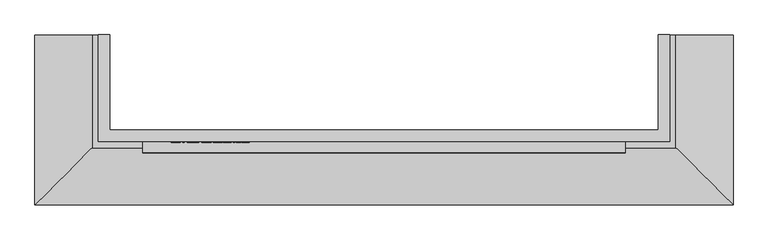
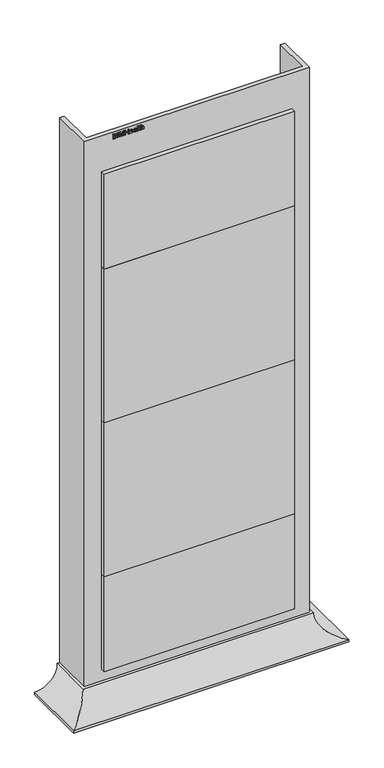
"""IFC4 building model written with IfcOpenShell, lengths in millimetres: furniture geometry, BIMHealth-Washstation-LOD2A-v1 : BIMHealth-Washstation-LOD2A-v1."""

from ifc_helpers import new_model, si_unit, frame, origin, origin_with_axes, place, context, project, spatial, polyline, circle_curve, ellipse_curve, outline, extrude, source, transform, mapped, element, save
from ifc_brep_helpers import plane_surface, revolved_surface, advanced_brep


def furniture_f87fb194(model_context):
    return source(origin(), model_context, "Body", "SolidModel", [
        advanced_brep(
        [(-900.0, 0.0, 100.0), (-900.0, 0.0, 0.0), (-1000.0, 0.0, 0.0), (-1000.0, 0.0, 10.0), (-910.0, 0.0, 100.0), (-900.0, -168.0, 100.0), (-900.0, -168.0, 0.0), (0.0, -168.0, 0.0), (0.0, 0.0, 0.0), (100.0, 0.0, 0.0), (100.0, -268.0, 0.0), (-1000.0, -268.0, 0.0), (-1000.0, -268.0, 10.0), (-910.0, -178.0, 100.0), (10.0, -178.0, 100.0), (10.0, 0.0, 100.0), (0.0, 0.0, 100.0), (0.0, -168.0, 100.0), (100.0, -268.0, 10.0), (100.0, 0.0, 10.0)],
        [
            (0, 1),
            (1, 2),
            (2, 3),
            (3, 4, circle_curve(frame((-1000.0, 0.0, 100.0), z_axis=(0.0, -1.0, 0.0), x_axis=(-1.0, 0.0, 0.0)), 90.0)),
            (4, 0),
            (0, 5),
            (5, 6),
            (6, 1),
            (6, 7),
            (7, 8),
            (8, 9),
            (9, 10),
            (10, 11),
            (11, 2),
            (11, 12),
            (12, 3),
            (12, 13, ellipse_curve(frame((-1000.0, -268.0, 100.0), z_axis=(0.7071067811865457, -0.7071067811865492, 0.0), x_axis=(-0.7071067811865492, -0.7071067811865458, 0.0)), 127.2792206, 90.0)),
            (13, 4),
            (13, 14),
            (14, 15),
            (15, 16),
            (16, 17),
            (17, 5),
            (17, 7),
            (10, 18),
            (18, 12),
            (18, 14, ellipse_curve(frame((100.0, -268.0, 100.0), z_axis=(0.7071067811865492, 0.7071067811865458, 0.0), x_axis=(0.7071067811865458, -0.7071067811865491, 0.0)), 127.2792206, 90.0)),
            (15, 19, circle_curve(frame((100.0, 0.0, 100.0), z_axis=(0.0, -1.0, 0.0), x_axis=(1.0, 0.0, 0.0)), 90.0)),
            (19, 9),
            (8, 16),
            (19, 18),
        ],
        [
            plane_surface(frame((-900.0, 0.0, 0.0), z_axis=(0.0, 1.0, 0.0), x_axis=(0.0, 0.0, 1.0))),
            plane_surface(frame((-900.0, 0.0, 100.0), z_axis=(1.0, 0.0, 0.0), x_axis=(0.0, -1.0, 0.0))),
            plane_surface(frame((-900.0, 0.0, 0.0), z_axis=(0.0, 0.0, -1.0), x_axis=(0.0, -1.0, 0.0))),
            plane_surface(frame((-1000.0, 0.0, 0.0), z_axis=(-1.0, 0.0, 0.0), x_axis=(0.0, -1.0, 0.0))),
            revolved_surface(polyline([(-1090.0, -357.9999999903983, 100.0), (-1090.0, 0.0, 100.0)]), (-1000.0, 0.0, 100.0), (0.0, -1.0, 0.0)),
            plane_surface(frame((-910.0, 0.0, 100.0), z_axis=(0.0, 0.0, 1.0), x_axis=(0.0, -1.0, 0.0))),
            plane_surface(frame((-900.0, -168.0, 100.0), z_axis=(0.0, 1.0, 0.0), x_axis=(1.0, 0.0, 0.0))),
            plane_surface(frame((-1000.0, -268.0, 0.0), z_axis=(0.0, -1.0, 0.0), x_axis=(1.0, 0.0, 0.0))),
            revolved_surface(polyline([(189.99999999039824, -358.0, 100.0), (-1089.9999999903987, -358.0, 100.0)]), (-900.0, -268.0, 100.0), (1.0, 0.0, 0.0)),
            plane_surface(frame((0.0, 0.0, 0.0), z_axis=(0.0, 1.0, 0.0), x_axis=(0.0, 0.0, 1.0))),
            plane_surface(frame((0.0, -168.0, 100.0), z_axis=(-1.0, 0.0, 0.0), x_axis=(0.0, 1.0, 0.0))),
            plane_surface(frame((100.0, -268.0, 0.0), z_axis=(1.0, 0.0, 0.0), x_axis=(0.0, 1.0, 0.0))),
            revolved_surface(polyline([(190.0, 0.0, 100.0), (190.0, -357.9999999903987, 100.0)]), (100.0, -168.0, 100.0), (0.0, 1.0, 0.0)),
        ],
        [
            (0, [[1, 2, 3, 4, 5]]),
            (1, [[-1, 6, 7, 8]]),
            (2, [[-2, -8, 9, 10, 11, 12, 13, 14]]),
            (3, [[-3, -14, 15, 16]]),
            (4, [[-4, -16, 17, 18]]),
            (5, [[-5, -18, 19, 20, 21, 22, 23, -6]]),
            (6, [[-7, -23, 24, -9]]),
            (7, [[-15, -13, 25, 26]]),
            (8, [[-17, -26, 27, -19]]),
            (9, [[-21, 28, 29, -11, 30]]),
            (10, [[-24, -22, -30, -10]]),
            (11, [[-25, -12, -29, 31]]),
            (12, [[-27, -31, -28, -20]]),
        ],
    ),
        extrude(outline(polyline([(2373.0972535, -785.4733843), (2373.0972535, -778.0166535), (2373.4361958, -774.8604035), (2374.4361958, -772.7185766), (2376.3208112, -771.2834804), (2378.9674458, -770.7041535), (2382.0299458, -771.5527112), (2383.8664843, -773.978192), (2385.6092727, -771.9805958), (2387.9097535, -771.3195381), (2390.4289843, -772.1055958), (2392.2102343, -774.2786728), (2392.7895612, -777.9589612), (2392.7895612, -785.4733843), (2373.0972535, -785.4733843)]), holes=[polyline([(2384.7895612, -783.0118458), (2390.3280227, -783.0118458), (2390.3280227, -778.8579997), (2390.0708112, -775.6945381), (2389.121292, -774.2762689), (2387.5155227, -773.7810766), (2385.9121574, -774.3123266), (2385.0010997, -775.8916535), (2384.7895612, -778.5166535), (2384.7895612, -783.0118458)]), polyline([(2375.558792, -783.0118458), (2382.3280227, -783.0118458), (2382.3280227, -778.2041535), (2381.9986958, -775.1632881), (2380.8568689, -773.6368458), (2378.9434074, -773.165692), (2376.1910035, -774.5911728), (2375.6549458, -776.1368458), (2375.558792, -777.9637689), (2375.558792, -783.0118458)])]), frame((0.0, -170.0, 0.0), z_axis=(0.0, 1.0, 0.0), x_axis=(0.0, 0.0, 1.0)), (0.0, 0.0, 1.0), 2.0),
        extrude(outline(polyline([(-764.5503074, -170.0), (-767.0118458, -170.0), (-767.0118458, -168.0), (-764.5503074, -168.0), (-764.5503074, -170.0)])), frame((0.0, 0.0, 2373.0972535), z_axis=(0.0, 0.0, 1.0), x_axis=(1.0, 0.0, 0.0)), (0.0, 0.0, 1.0), 19.6923077),
        extrude(outline(polyline([(2373.0972535, -759.6272304), (2373.0972535, -757.165692), (2390.3280227, -757.165692), (2373.0972535, -752.2137689), (2373.0972535, -748.8820381), (2390.3280227, -743.9349228), (2373.0972535, -743.9349228), (2373.0972535, -741.4733843), (2392.7895612, -741.4733843), (2392.7895612, -745.7089612), (2379.1501381, -749.6704997), (2376.0107151, -750.5503074), (2378.9097535, -751.3676151), (2392.7895612, -755.4060766), (2392.7895612, -759.6272304), (2373.0972535, -759.6272304)])), frame((0.0, -170.0, 0.0), z_axis=(0.0, 1.0, 0.0), x_axis=(0.0, 0.0, 1.0)), (0.0, 0.0, 1.0), 2.0),
        extrude(outline(polyline([(2373.0972535, -737.165692), (2373.0972535, -734.7041535), (2382.3280227, -734.7041535), (2382.3280227, -724.2426151), (2373.0972535, -724.2426151), (2373.0972535, -721.7810766), (2392.7895612, -721.7810766), (2392.7895612, -724.2426151), (2384.7895612, -724.2426151), (2384.7895612, -734.7041535), (2392.7895612, -734.7041535), (2392.7895612, -737.165692), (2373.0972535, -737.165692)])), frame((0.0, -170.0, 0.0), z_axis=(0.0, 1.0, 0.0), x_axis=(0.0, 0.0, 1.0)), (0.0, 0.0, 1.0), 2.0),
        extrude(outline(polyline([(2377.4049458, -707.6560766), (2375.7655227, -709.2426151), (2375.2510997, -711.6560766), (2376.3616766, -714.8267497), (2379.558792, -716.2426151), (2380.2222535, -705.165692), (2385.8616766, -707.0334804), (2387.8664843, -711.8435766), (2385.8568689, -716.7954997), (2380.2078304, -718.7041535), (2374.7390804, -716.8147304), (2372.7895612, -711.7041535), (2373.9193689, -707.4998266), (2377.0972535, -705.2426151), (2377.4049458, -707.6560766)]), holes=[polyline([(2382.0203304, -716.2426151), (2384.4842727, -714.884442), (2385.4049458, -711.853192), (2384.2510997, -708.6128074), (2382.0203304, -707.6272304), (2382.0203304, -716.2426151)])]), frame((0.0, -170.0, 0.0), z_axis=(0.0, 1.0, 0.0), x_axis=(0.0, 0.0, 1.0)), (0.0, 0.0, 1.0), 2.0),
        extrude(outline(polyline([(2374.9434074, -693.4733843), (2373.0972535, -692.8579997), (2373.0972535, -690.3964612), (2375.1669651, -690.8868458), (2379.4434074, -691.0118458), (2382.5059074, -691.0118458), (2384.6597535, -691.1320381), (2386.3304266, -691.8868458), (2387.4289843, -693.571942), (2387.8664843, -696.5551151), (2387.371292, -699.8027112), (2385.9626381, -701.946942), (2383.558792, -703.0118458), (2383.2510997, -700.5503074), (2384.9313881, -699.3628074), (2385.4049458, -696.8724228), (2384.6934074, -694.1512689), (2382.3280227, -693.4878074), (2381.4818689, -697.7570381), (2381.1116766, -699.8868458), (2380.3039843, -701.6104035), (2378.8905227, -702.8483843), (2376.9434074, -703.3195381), (2373.9578304, -702.071942), (2372.7895612, -698.4974228), (2373.2751381, -695.8604035), (2374.9434074, -693.4733843)]), holes=[polyline([(2379.5179266, -693.4805958), (2377.2655227, -693.8772304), (2375.840042, -695.4829997), (2375.2510997, -697.9733843), (2378.7126381, -699.5623266), (2379.1116766, -697.4445381), (2379.5179266, -693.4805958)])]), frame((0.0, -170.0, 0.0), z_axis=(0.0, 1.0, 0.0), x_axis=(0.0, 0.0, 1.0)), (0.0, 0.0, 1.0), 2.0),
        extrude(outline(polyline([(-685.165692, -170.0), (-687.6272304, -170.0), (-687.6272304, -168.0), (-685.165692, -168.0), (-685.165692, -170.0)])), frame((0.0, 0.0, 2373.0972535), z_axis=(0.0, 0.0, 1.0), x_axis=(1.0, 0.0, 0.0)), (0.0, 0.0, 1.0), 19.6923077),
        extrude(outline(polyline([(2376.1429266, -677.4733843), (2385.0972535, -678.7041535), (2385.0972535, -676.2426151), (2387.558792, -676.2426151), (2387.558792, -678.7041535), (2392.5203304, -678.7041535), (2391.0732151, -681.165692), (2387.558792, -681.165692), (2387.558792, -683.0118458), (2385.0972535, -683.0118458), (2385.0972535, -681.165692), (2377.0635997, -681.165692), (2373.1982151, -679.8387689), (2372.7895612, -677.7762689), (2373.0251381, -675.9349228), (2376.1429266, -677.4733843)])), frame((0.0, -170.0, 0.0), z_axis=(0.0, 1.0, 0.0), x_axis=(0.0, 0.0, 1.0)), (0.0, 0.0, 1.0), 2.0),
        extrude(outline(polyline([(2373.0972535, -673.7810766), (2373.0972535, -671.3195381), (2380.7799458, -671.3195381), (2383.371292, -670.9180958), (2384.8568689, -669.571942), (2385.4049458, -667.5551151), (2384.5924458, -665.3339612), (2381.996292, -664.5503074), (2373.0972535, -664.5503074), (2373.0972535, -662.0887689), (2382.2510997, -662.0887689), (2385.4866766, -662.5935766), (2387.2342727, -664.2714612), (2387.8664843, -667.0358843), (2385.5491766, -671.3195381), (2392.7895612, -671.3195381), (2392.7895612, -673.7810766), (2373.0972535, -673.7810766)])), frame((0.0, -170.0, 0.0), z_axis=(0.0, 1.0, 0.0), x_axis=(0.0, 0.0, 1.0)), (0.0, 0.0, 1.0), 2.0),
        extrude(outline(polyline([(-70.0, -168.0), (-70.0, -186.0), (-830.0, -186.0), (-830.0, -168.0), (-70.0, -168.0)])), frame((0.0, 0.0, 1850.0), z_axis=(0.0, 0.0, 1.0), x_axis=(1.0, 0.0, 0.0)), (0.0, 0.0, 1.0), 400.0),
        extrude(outline(polyline([(-70.0, -168.0), (-70.0, -186.0), (-830.0, -186.0), (-830.0, -168.0), (-70.0, -168.0)])), frame((0.0, 0.0, 1200.0), z_axis=(0.0, 0.0, 1.0), x_axis=(1.0, 0.0, 0.0)), (0.0, 0.0, 1.0), 650.0),
        extrude(outline(polyline([(-70.0, -168.0), (-70.0, -186.0), (-830.0, -186.0), (-830.0, -168.0), (-70.0, -168.0)])), frame((0.0, 0.0, 550.0), z_axis=(0.0, 0.0, 1.0), x_axis=(1.0, 0.0, 0.0)), (0.0, 0.0, 1.0), 650.0),
        extrude(outline(polyline([(-70.0, -168.0), (-70.0, -186.0), (-830.0, -186.0), (-830.0, -168.0), (-70.0, -168.0)])), frame((0.0, 0.0, 150.0), z_axis=(0.0, 0.0, 1.0), x_axis=(1.0, 0.0, 0.0)), (0.0, 0.0, 1.0), 400.0),
        extrude(outline(polyline([(-900.0, -168.0), (-900.0, 0.0), (-882.0, 0.0), (-882.0, -150.0), (-18.0, -150.0), (-18.0, 0.0), (0.0, 0.0), (0.0, -168.0), (-900.0, -168.0)])), origin_with_axes(), (0.0, 0.0, 1.0), 2400.0),
    ])


if __name__ == "__main__":
    model = new_model("IFC4")
    model_context = context("Model", 3, world=origin())
    ifc_project = project(units=[si_unit("LENGTHUNIT", "METRE", prefix="MILLI")], contexts=[model_context])
    site = spatial("IfcSite", under=ifc_project)
    building = spatial("IfcBuilding", under=site)
    placement = place(None, origin())
    furniture_shape = furniture_f87fb194(model_context)
    element("IfcFurniture", 1, ObjectType="BIMHealth-Washstation-LOD2A-v1 : BIMHealth-Washstation-LOD2A-v1", at=placement, inside=building, context=model_context, shape_type="MappedRepresentation", body=[
        mapped(furniture_shape, transform((0.0, 0.0, 0.0), x_axis=(1.0, 0.0, 0.0), y_axis=(0.0, 1.0, 0.0), z_axis=(0.0, 0.0, 1.0))),
    ])
    save(model, "model.ifc")
